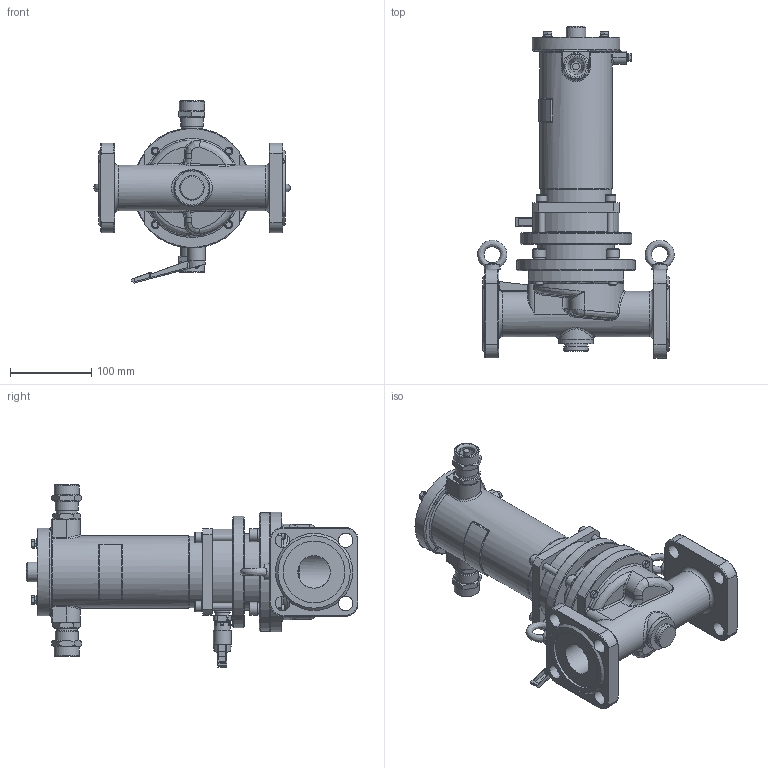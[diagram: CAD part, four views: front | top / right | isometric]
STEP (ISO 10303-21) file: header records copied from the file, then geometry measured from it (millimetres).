
FILE_DESCRIPTION(('STEP AP203'), '1');
FILE_NAME('捇迕-珅 DN40PN25-捔', '', ('UNSPECIFIED'), ('UNSPECIFIED'), 'C3D Converter', 'C3D Toolkit', '');
FILE_SCHEMA(('CONFIG_CONTROL_DESIGN'));
Length unit declared in the file: millimetre
Bounding box: 241.88 x 408.5 x 224 mm (x, y, z)
Volume: 2127259.7 mm3; surface area: 498452.9 mm2
Topology: 4 solids, 20 shells, 2947 faces, 7912 edges, 5104 vertices
Faces by surface type: plane 1253, cylinder 1215, cone 192, extrusion 108, bspline 99, torus 71, sphere 9
Full cylindrical faces by diameter (mm): 1 x2, 2.459 x1, 3 x1, 3.1 x1, 3.242 x1, 3.5 x2, 4 x2, 4.134 x1, 4.3 x1, 4.917 x6, 5 x2, 6 x10, 6.3 x1, 6.647 x8, 7 x1, 8 x13, 9 x9, 10 x11, 11 x5, 12 x6, 12.5 x1, 13 x6, 13.8 x1, 14 x2, 15 x1, 16 x5, 17 x1, 17.8 x1, 18 x8, 18.376 x1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
Entity records: 145189 total; most frequent: CARTESIAN_POINT 48914, DIRECTION 15167, ORIENTED_EDGE 15014, EDGE_CURVE 7507, AXIS2_PLACEMENT_3D 5672, VERTEX_POINT 5077, VECTOR 3823, LINE 3715
